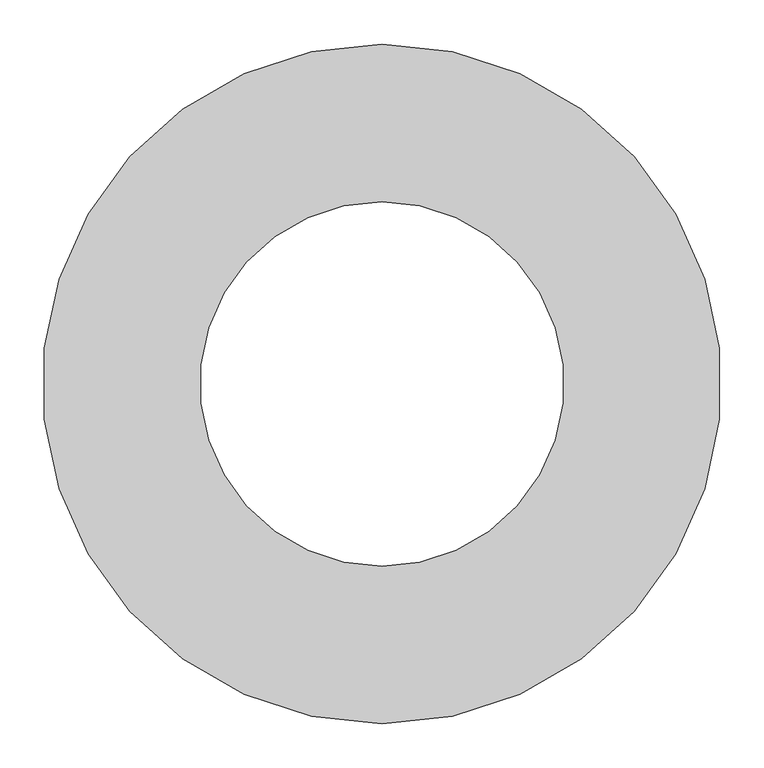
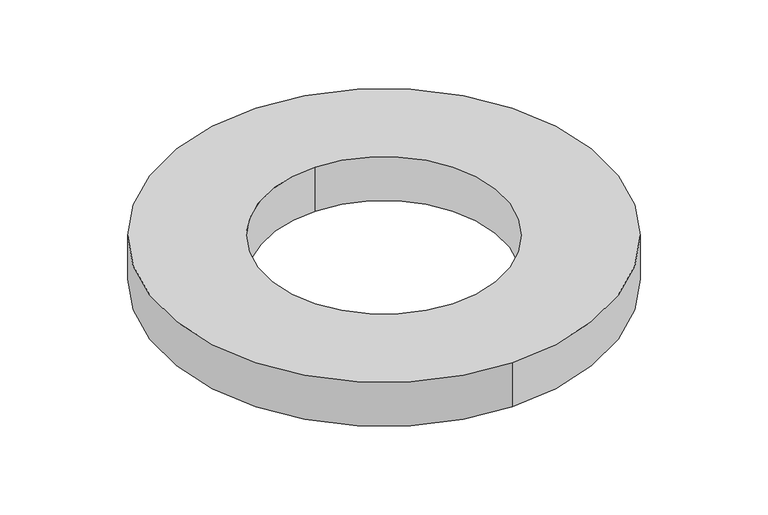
"""IFC4 building model written with IfcOpenShell, lengths in millimetres: valve geometry, Pipelife - Studnia PRO - Adapter tworzywowy : Studnia Adapter TX765/410 pod wpust 600 ze stopą 700."""

import ifcopenshell
import ifcopenshell.guid

model = None  # the IFC model being written
_history = None  # IfcOwnerHistory: only IFC2X3 demands one
_inside = {}  # id of a spatial element -> (the spatial element, [elements in it])
_under = {}  # id of a project, library or spatial element -> (it, [spatial elements below it])
_declared = {}  # id of a project -> (the project, [libraries it declares])
_typed = {}  # id of a type object -> (the type object, [elements of that type])
_made_of = {}  # id of a material, layer set ... -> (it, [elements and type objects made of it])


def new_model(schema):
    """Start an empty IFC model of exactly this schema.

    Asked for "IFC4X3", IfcOpenShell would pick the latest addendum, in which some entities
    have other attributes; the version numbers below select the first issue.
    IFC2X3 requires an IfcOwnerHistory on every rooted entity: one is made here for all.
    """
    global model, _history
    if schema == "IFC4X3":
        model = ifcopenshell.file(schema_version=(4, 3, 0, 0))
    else:
        model = ifcopenshell.file(schema=schema)
    _inside.clear()
    _under.clear()
    _declared.clear()
    _typed.clear()
    _made_of.clear()
    _history = None
    if model.schema == "IFC2X3":
        org = make("IfcOrganization", Name="unknown")
        user = make(
            "IfcPersonAndOrganization",
            ThePerson=make("IfcPerson", FamilyName="unknown"),
            TheOrganization=org,
        )
        app = make(
            "IfcApplication",
            ApplicationDeveloper=org,
            Version="unknown",
            ApplicationFullName="unknown",
            ApplicationIdentifier="unknown",
        )
        _history = make(
            "IfcOwnerHistory",
            OwningUser=user,
            OwningApplication=app,
            ChangeAction="ADDED",
            CreationDate=0,
        )
    return model


def make(cls, **values):
    """One entity of the class cls with the attributes given. An attribute that is None is left unset."""
    return model.create_entity(
        cls, **{name: value for name, value in values.items() if value is not None}
    )


def rooted(cls, **values):
    """An entity with a GlobalId (a new one), such as an element, a storey or a relation."""
    return make(cls, GlobalId=ifcopenshell.guid.new(), OwnerHistory=_history, **values)


def si_unit(unit_type, name, prefix=None):
    """IfcSIUnit, for example si_unit("LENGTHUNIT", "METRE", prefix="MILLI")."""
    return make("IfcSIUnit", UnitType=unit_type, Prefix=prefix, Name=name)


def assignment(units):
    """IfcUnitAssignment: the units of a project."""
    return None if units is None else make("IfcUnitAssignment", Units=units)


def point(xyz):
    """IfcCartesianPoint."""
    return None if xyz is None else make("IfcCartesianPoint", Coordinates=xyz)


def direction(xyz):
    """IfcDirection."""
    return None if xyz is None else make("IfcDirection", DirectionRatios=xyz)


def frame(location, z_axis=None, x_axis=None):
    """IfcAxis2Placement3D, a coordinate frame: its origin and axes. An axis left out is left unset."""
    return make(
        "IfcAxis2Placement3D",
        Location=point(location),
        Axis=direction(z_axis),
        RefDirection=direction(x_axis),
    )


def frame_2d(location, x_axis=None):
    """IfcAxis2Placement2D, a coordinate frame in the plane: its origin and x axis."""
    return make(
        "IfcAxis2Placement2D", Location=point(location), RefDirection=direction(x_axis)
    )


def origin():
    """The frame at (0, 0, 0) with its axes left unset."""
    return frame((0.0, 0.0, 0.0))


def origin_with_axes():
    """The frame at (0, 0, 0) with the z axis (0, 0, 1) and the x axis (1, 0, 0) written out."""
    return frame((0.0, 0.0, 0.0), z_axis=(0.0, 0.0, 1.0), x_axis=(1.0, 0.0, 0.0))


def origin_2d():
    """The frame at (0, 0) in the plane with its x axis left unset."""
    return frame_2d((0.0, 0.0))


def place(relative_to, where):
    """IfcLocalPlacement: puts the frame where relative to a parent placement (None: the world)."""
    return make(
        "IfcLocalPlacement", PlacementRelTo=relative_to, RelativePlacement=where
    )


def context(
    kind, dimensions, precision=None, world=None, true_north=None, identifier=None
):
    """IfcGeometricRepresentationContext, for example the 3D "Model" context."""
    return make(
        "IfcGeometricRepresentationContext",
        ContextIdentifier=identifier,
        ContextType=kind,
        CoordinateSpaceDimension=dimensions,
        Precision=precision,
        WorldCoordinateSystem=world,
        TrueNorth=true_north,
    )


def project(units=None, contexts=None):
    """IfcProject with its units and contexts."""
    return rooted(
        "IfcProject",
        Name="project",
        RepresentationContexts=contexts,
        UnitsInContext=assignment(units),
    )


def spatial(cls, under=None, at=None, **own):
    """A site, building, storey or space (cls), placed at a placement, below another one or the project."""
    s = rooted(cls, ObjectPlacement=at, **own)
    if under is not None:
        _under.setdefault(under.id(), (under, []))[1].append(s)
    return s


def circle_curve(where, radius):
    """IfcCircle in the frame where."""
    return make("IfcCircle", Position=where, Radius=radius)


def trimmed(basis, trim1, trim2, sense, master):
    """IfcTrimmedCurve: the piece of a basis curve between two trims."""
    return make(
        "IfcTrimmedCurve",
        BasisCurve=basis,
        Trim1=trim1,
        Trim2=trim2,
        SenseAgreement=sense,
        MasterRepresentation=master,
    )


def segment(curve, same_sense, transition):
    """IfcCompositeCurveSegment."""
    return make(
        "IfcCompositeCurveSegment",
        Transition=transition,
        SameSense=same_sense,
        ParentCurve=curve,
    )


def composite_curve(segments, self_intersect=None):
    """IfcCompositeCurve: segments joined end to end."""
    return make("IfcCompositeCurve", Segments=segments, SelfIntersect=self_intersect)


def outline(outer, holes=None, kind="AREA"):
    """IfcArbitraryClosedProfileDef: a profile drawn as a closed curve; with holes, ...WithVoids."""
    if holes is None:
        return make("IfcArbitraryClosedProfileDef", ProfileType=kind, OuterCurve=outer)
    return make(
        "IfcArbitraryProfileDefWithVoids",
        ProfileType=kind,
        OuterCurve=outer,
        InnerCurves=holes,
    )


def extrude(swept, where, along, depth):
    """IfcExtrudedAreaSolid: the profile swept, set in the frame where, extruded along a direction by depth."""
    return make(
        "IfcExtrudedAreaSolid",
        SweptArea=swept,
        Position=where,
        ExtrudedDirection=direction(along),
        Depth=depth,
    )


def shape(context_of_items, identifier, shape_type, items):
    """IfcShapeRepresentation: the items that make up one representation, for example the "Body"."""
    return make(
        "IfcShapeRepresentation",
        ContextOfItems=context_of_items,
        RepresentationIdentifier=identifier,
        RepresentationType=shape_type,
        Items=items,
    )


def source(mapping_origin, context_of_items, identifier, shape_type, items):
    """IfcRepresentationMap: a shape defined once, which mapped items show again and again."""
    return make(
        "IfcRepresentationMap",
        MappingOrigin=mapping_origin,
        MappedRepresentation=shape(context_of_items, identifier, shape_type, items),
    )


def transform(
    local_origin,
    x_axis=None,
    y_axis=None,
    z_axis=None,
    scale=None,
    scale2=None,
    scale3=None,
    uniform=True,
):
    """IfcCartesianTransformationOperator3D, or its non-uniform kind. x_axis, y_axis, z_axis: its Axis1, 2, 3."""
    if uniform:
        return make(
            "IfcCartesianTransformationOperator3D",
            Axis1=direction(x_axis),
            Axis2=direction(y_axis),
            LocalOrigin=point(local_origin),
            Scale=scale,
            Axis3=direction(z_axis),
        )
    return make(
        "IfcCartesianTransformationOperator3DnonUniform",
        Axis1=direction(x_axis),
        Axis2=direction(y_axis),
        LocalOrigin=point(local_origin),
        Scale=scale,
        Axis3=direction(z_axis),
        Scale2=scale2,
        Scale3=scale3,
    )


def mapped(mapping_source, mapping_target):
    """IfcMappedItem: shows the shape of a source again, moved by a transform."""
    return make(
        "IfcMappedItem", MappingSource=mapping_source, MappingTarget=mapping_target
    )


def made_of(thing, what):
    """Note that an element or type object is made of a material, layer set ...; save() writes the relation."""
    if what is not None:
        _made_of.setdefault(what.id(), (what, []))[1].append(thing)
    return thing


def element(
    cls,
    number,
    at=None,
    inside=None,
    cuts=None,
    type_object=None,
    material=None,
    context=None,
    identifier="Body",
    shape_type=None,
    held_by="IfcProductDefinitionShape",
    body=None,
    shapes=None,
    **own,
):
    """One element of the class cls, such as IfcWall. Its Tag is "e" and its number.

    at: its placement. inside: the storey or other place that contains it. cuts: it is an
    opening in that element (IfcRelVoidsElement). A single representation is given by context,
    identifier, shape_type and body (its items); several are given by shapes. held_by: the class
    of the entity that holds the representations. save() writes the other relations.
    """
    e = rooted(cls, Tag="e%d" % number, ObjectPlacement=at, **own)
    if body is not None:
        shapes = [shape(context, identifier, shape_type, body)]
    if shapes is not None:
        e.Representation = make(held_by, Representations=shapes)
    if inside is not None:
        _inside.setdefault(inside.id(), (inside, []))[1].append(e)
    if cuts is not None:
        rooted(
            "IfcRelVoidsElement", RelatingBuildingElement=cuts, RelatedOpeningElement=e
        )
    if type_object is not None:
        _typed.setdefault(type_object.id(), (type_object, []))[1].append(e)
    return made_of(e, material)


def aggregate(whole, parts):
    """IfcRelAggregates: a whole, such as a stair, and the parts it consists of."""
    return rooted("IfcRelAggregates", RelatingObject=whole, RelatedObjects=parts)


def save(model, path):
    """Write the relations noted so far, then the file.

    IfcRelAggregates (storeys below a building ...), IfcRelContainedInSpatialStructure (elements
    in a storey), IfcRelDefinesByType, IfcRelAssociatesMaterial and IfcRelDeclares: one each for
    every whole, place, type object, material and project.
    """
    for whole, parts in _under.values():
        aggregate(whole, parts)
    for where, things in _inside.values():
        rooted(
            "IfcRelContainedInSpatialStructure",
            RelatedElements=things,
            RelatingStructure=where,
        )
    for kind, things in _typed.values():
        rooted("IfcRelDefinesByType", RelatedObjects=things, RelatingType=kind)
    for what, things in _made_of.values():
        rooted("IfcRelAssociatesMaterial", RelatedObjects=things, RelatingMaterial=what)
    for by, libraries in _declared.values():
        rooted("IfcRelDeclares", RelatingContext=by, RelatedDefinitions=libraries)
    model.write(path)


def valve_3579990f(model_context):
    return source(origin(), model_context, "Body", "SweptSolid", [
        extrude(outline(composite_curve([segment(trimmed(circle_curve(origin_2d(), 382.5), [point((0.0, 382.5))], [point((0.0, -382.5))], False, "CARTESIAN"), True, "CONTINUOUS"), segment(trimmed(circle_curve(origin_2d(), 382.5), [point((0.0, -382.5))], [point((0.0, 382.5))], False, "CARTESIAN"), True, "CONTINUOUS")], self_intersect=False), holes=[composite_curve([segment(trimmed(circle_curve(origin_2d(), 205.0), [point((0.0, 205.0))], [point((0.0, -205.0))], True, "CARTESIAN"), True, "CONTINUOUS"), segment(trimmed(circle_curve(origin_2d(), 205.0), [point((0.0, -205.0))], [point((0.0, 205.0))], True, "CARTESIAN"), True, "CONTINUOUS")], self_intersect=False)]), origin_with_axes(), (0.0, 0.0, 1.0), 80.0),
    ])


if __name__ == "__main__":
    model = new_model("IFC4")
    model_context = context("Model", 3, world=origin())
    ifc_project = project(units=[si_unit("LENGTHUNIT", "METRE", prefix="MILLI")], contexts=[model_context])
    site = spatial("IfcSite", under=ifc_project)
    building = spatial("IfcBuilding", under=site)
    placement = place(None, origin())
    valve_shape = valve_3579990f(model_context)
    element("IfcValve", 1, ObjectType="Pipelife - Studnia PRO - Adapter tworzywowy : Studnia Adapter TX765/410 pod wpust 600 ze stopą 700", at=placement, inside=building, context=model_context, shape_type="MappedRepresentation", body=[
        mapped(valve_shape, transform((0.0, 0.0, 0.0), x_axis=(1.0, 0.0, 0.0), y_axis=(0.0, 1.0, 0.0), z_axis=(0.0, 0.0, 1.0))),
    ])
    save(model, "model.ifc")
